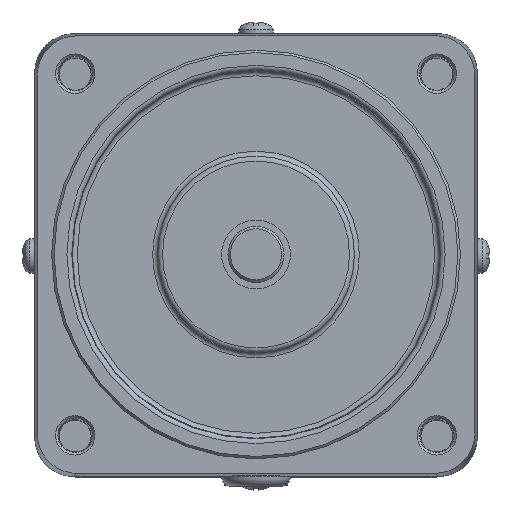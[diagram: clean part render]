
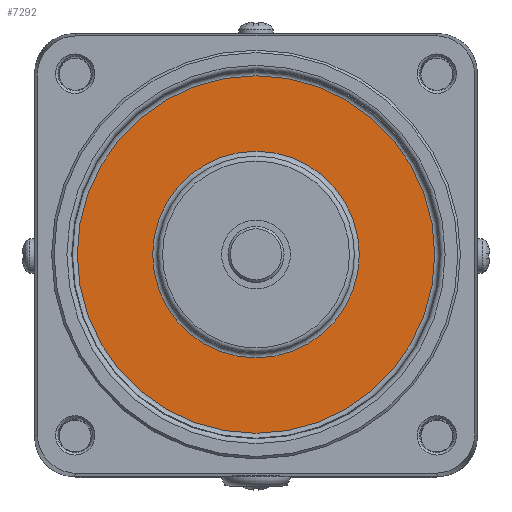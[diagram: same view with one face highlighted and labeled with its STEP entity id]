
A CAD part, top view. The second image highlights one B-rep face of the part: STEP entity #7292.
In plain terms, the highlighted planar face has unit normal (0, 0, 1).
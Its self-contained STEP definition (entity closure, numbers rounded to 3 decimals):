
#193 = DIRECTION ( 'NONE',  ( 0., 0., -1. ) ) ;
#228 = EDGE_LOOP ( 'NONE', ( #6325 ) ) ;
#497 = DIRECTION ( 'NONE',  ( 0., 0., 1. ) ) ;
#642 = FACE_BOUND ( 'NONE', #4975, .T. ) ;
#798 = CARTESIAN_POINT ( 'NONE',  ( 21., 0., 71.5 ) ) ;
#1494 = ORIENTED_EDGE ( 'NONE', *, *, #10113, .T. ) ;
#1532 = AXIS2_PLACEMENT_3D ( 'NONE', #12907, #193, #7204 ) ;
#1873 = DIRECTION ( 'NONE',  ( 0., 0., 1. ) ) ;
#3371 = DIRECTION ( 'NONE',  ( 1., 0., 0. ) ) ;
#3556 = VERTEX_POINT ( 'NONE', #14409 ) ;
#4975 = EDGE_LOOP ( 'NONE', ( #1494 ) ) ;
#5051 = EDGE_CURVE ( 'NONE', #3556, #3556, #5990, .T. ) ;
#5258 = AXIS2_PLACEMENT_3D ( 'NONE', #8731, #497, #9874 ) ;
#5990 = CIRCLE ( 'NONE', #5258, 36.341 ) ;
#6325 = ORIENTED_EDGE ( 'NONE', *, *, #5051, .T. ) ;
#6460 = CIRCLE ( 'NONE', #1532, 21. ) ;
#6560 = PLANE ( 'NONE',  #8811 ) ;
#6638 = VERTEX_POINT ( 'NONE', #798 ) ;
#7204 = DIRECTION ( 'NONE',  ( 1., 0., 0. ) ) ;
#7292 = ADVANCED_FACE ( 'NONE', ( #12412, #642 ), #6560, .T. ) ;
#8731 = CARTESIAN_POINT ( 'NONE',  ( 0., 0., 71.5 ) ) ;
#8811 = AXIS2_PLACEMENT_3D ( 'NONE', #13851, #1873, #3371 ) ;
#9874 = DIRECTION ( 'NONE',  ( 1., 0., 0. ) ) ;
#10113 = EDGE_CURVE ( 'NONE', #6638, #6638, #6460, .T. ) ;
#12412 = FACE_OUTER_BOUND ( 'NONE', #228, .T. ) ;
#12907 = CARTESIAN_POINT ( 'NONE',  ( 0., 0., 71.5 ) ) ;
#13851 = CARTESIAN_POINT ( 'NONE',  ( 0., 0., 71.5 ) ) ;
#14409 = CARTESIAN_POINT ( 'NONE',  ( 36.341, 0., 71.5 ) ) ;
